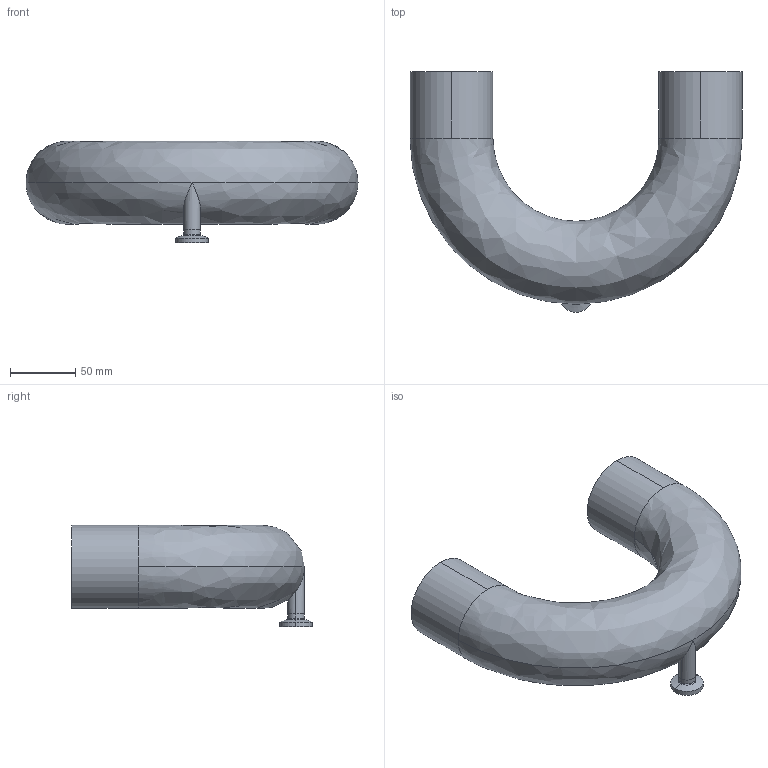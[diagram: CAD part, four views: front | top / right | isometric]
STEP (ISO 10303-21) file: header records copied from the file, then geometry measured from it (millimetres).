
FILE_DESCRIPTION (( 'STEP AP214' ), '1' );
FILE_NAME ('TE2USWWC6L2.5x.5-...STEP', '2016-05-25T05:41:59', ( 'eran' ), ( '' ), 'SwSTEP 2.0', 'SolidWorks 2016', '' );
FILE_SCHEMA (( 'AUTOMOTIVE_DESIGN' ));
Length unit declared in the file: millimetre
Products named in the file (1): TE2USWWC6L2.5x.5-..
Bounding box: 254 x 184 x 77.75 mm (x, y, z)
Volume: 131257 mm3; surface area: 159240 mm2
Topology: 2 solids, 2 shells, 42 faces, 98 edges, 60 vertices
Faces by surface type: cylinder 20, bspline 12, plane 6, cone 4
Entity records: 1707 total; most frequent: CARTESIAN_POINT 707, DIRECTION 214, ORIENTED_EDGE 196, EDGE_CURVE 98, AXIS2_PLACEMENT_3D 95, CIRCLE 64, VERTEX_POINT 60, EDGE_LOOP 48
